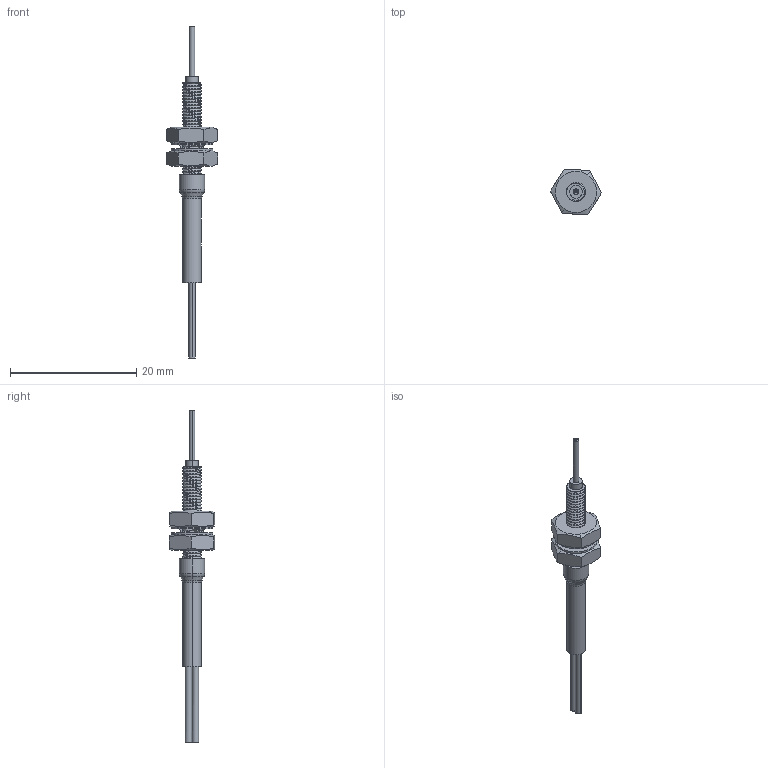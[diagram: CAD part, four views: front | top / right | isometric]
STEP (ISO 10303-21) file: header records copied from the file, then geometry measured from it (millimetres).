
FILE_DESCRIPTION (( 'STEP AP203' ), '1' );
FILE_NAME ('PD-E42.STEP', '2016-06-30T01:35:49', ( '' ), ( '' ), 'SwSTEP 2.0', 'SolidWorks 2013', '' );
FILE_SCHEMA (( 'CONFIG_CONTROL_DESIGN' ));
Length unit declared in the file: millimetre
Products named in the file (1): PD-E42
Bounding box: 8.08 x 7.15 x 52.51 mm (x, y, z)
Volume: 403.6 mm3; surface area: 1053.4 mm2
Topology: 6 solids, 6 shells, 439 faces, 1204 edges, 792 vertices
Faces by surface type: plane 263, cylinder 131, bspline 25, cone 12, torus 8
Entity records: 18136 total; most frequent: CARTESIAN_POINT 7555, ORIENTED_EDGE 2408, DIRECTION 1949, EDGE_CURVE 1204, VERTEX_POINT 792, VECTOR 717, LINE 717, AXIS2_PLACEMENT_3D 616
